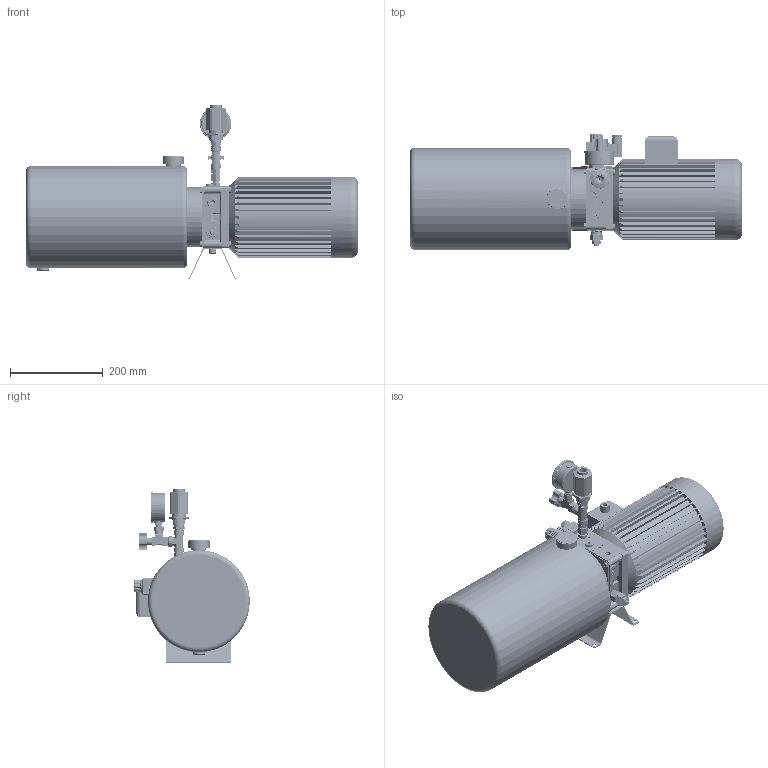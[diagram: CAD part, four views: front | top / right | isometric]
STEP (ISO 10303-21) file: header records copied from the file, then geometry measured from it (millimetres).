
FILE_DESCRIPTION(/* description */ (''),/* implementation_level */ '2;1');
FILE_NAME(/* name */ 'C:\Users\stolbov\Documents\Inventor\!Хлам\PPC-KV-S_Lift012-3-140-11.stp',/* time_stamp */ '2019-05-28T15:54:36+03:00',/* author */ ('stolbov'),/* organization */ (''),/* preprocessor_version */ 'ST-DEVELOPER v18',/* originating_system */ 'Autodesk Inventor 2020',/* authorisation */ '');
FILE_SCHEMA (('AUTOMOTIVE_DESIGN { 1 0 10303 214 3 1 1 }'));
Products named in the file (1): Деталь6
Bounding box: 716 x 249.6 x 377.19 mm (x, y, z)
Volume: 8169262 mm3; surface area: 1380043.7 mm2
Topology: 48 solids, 56 shells, 6230 faces, 16575 edges, 10631 vertices
Faces by surface type: plane 1860, cylinder 1730, bspline 1173, cone 912, torus 365, sphere 190
Full cylindrical faces by diameter (mm): 0.2 x1, 0.7 x1, 0.75 x1, 1.5 x2, 2 x1, 2.459 x1, 3 x7, 3.6 x1, 4 x13, 4.917 x7, 5 x6, 5.5 x5, 5.707 x1, 5.88 x1, 6 x60, 6.3 x1, 6.35 x1, 6.5 x1, 6.647 x2, 7 x5, 7.5 x4, 7.9 x1, 8 x107, 8.5 x8, 8.75 x4, 9 x4, 9.222 x1, 9.285 x1, 9.5 x1, 9.8 x1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
Entity records: 381554 total; most frequent: CARTESIAN_POINT 223228, ORIENTED_EDGE 32866, DIRECTION 31988, EDGE_CURVE 16433, AXIS2_PLACEMENT_3D 13145, VERTEX_POINT 10631, CIRCLE 7335, EDGE_LOOP 6718
